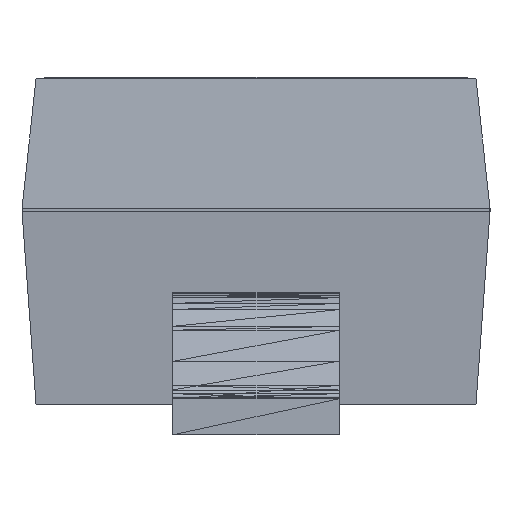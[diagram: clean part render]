
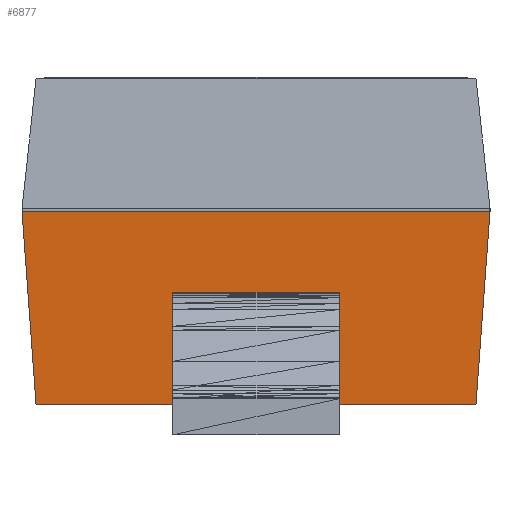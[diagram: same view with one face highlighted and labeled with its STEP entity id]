
A CAD part, left-side view. The second image highlights one B-rep face of the part: STEP entity #6877.
In plain terms, the highlighted planar face has unit normal (-0.997, 0, -0.072).
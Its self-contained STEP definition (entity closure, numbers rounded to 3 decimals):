
#6814 = CARTESIAN_POINT('',(-1.304,-0.729,0.1));
#6815 = VERTEX_POINT('',#6814);
#6820 = CARTESIAN_POINT('',(-1.35,-0.775,0.74));
#6821 = VERTEX_POINT('',#6820);
#6837 = DIRECTION('',(-0.072,-0.072,0.995));
#6838 = VECTOR('',#6837,1.);
#6839 = LINE('',#6814,#6838);
#6840 = EDGE_CURVE('',#6815,#6821,#6839,.T.);
#6850 = CARTESIAN_POINT('',(-1.35,0.775,0.74));
#6851 = VERTEX_POINT('',#6850);
#6852 = CARTESIAN_POINT('',(-1.304,0.729,0.1));
#6853 = VERTEX_POINT('',#6852);
#6854 = ORIENTED_EDGE('',*,*,#6840,.T.);
#6855 = DIRECTION('',(0.,1.,0.));
#6856 = VECTOR('',#6855,1.);
#6857 = LINE('',#6820,#6856);
#6858 = EDGE_CURVE('',#6821,#6851,#6857,.T.);
#6859 = ORIENTED_EDGE('',*,*,#6858,.T.);
#6860 = DIRECTION('',(-0.072,0.072,0.995));
#6861 = VECTOR('',#6860,1.);
#6862 = LINE('',#6852,#6861);
#6863 = EDGE_CURVE('',#6853,#6851,#6862,.T.);
#6864 = ORIENTED_EDGE('',*,*,#6863,.F.);
#6865 = DIRECTION('',(0.,1.,0.));
#6866 = VECTOR('',#6865,1.);
#6867 = LINE('',#6814,#6866);
#6868 = EDGE_CURVE('',#6815,#6853,#6867,.T.);
#6869 = ORIENTED_EDGE('',*,*,#6868,.F.);
#6870 = CARTESIAN_POINT('',(-1.304,-0.729,0.1));
#6871 = DIRECTION('',(-0.997,0.,-0.072));
#6872 = DIRECTION('',(-0.072,-0.072,0.995));
#6873 = AXIS2_PLACEMENT_3D('',#6870,#6871,#6872);
#6874 = PLANE('',#6873);
#6875 = EDGE_LOOP('',(#6854,#6859,#6864,#6869));
#6876 = FACE_OUTER_BOUND('',#6875,.T.);
#6877 = ADVANCED_FACE('',(#6876),#6874,.T.);
